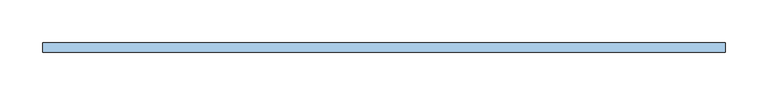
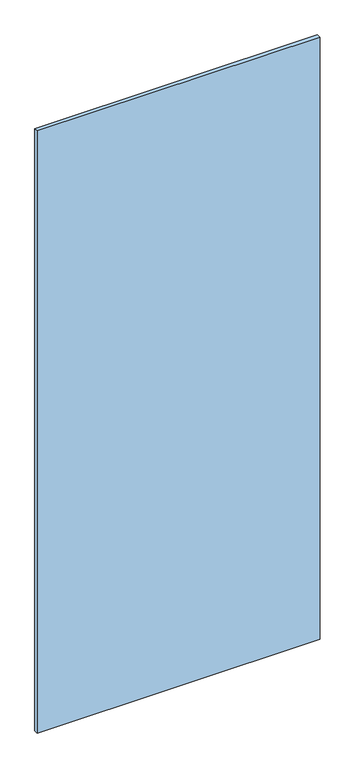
"""IFC4 building model written with IfcOpenShell, lengths in millimetres: window geometry, Baño 1 Hueco lateral : CA-3-cancel baño-1.455 2 2."""

import ifcopenshell
import ifcopenshell.guid

model = None  # the IFC model being written
_history = None  # IfcOwnerHistory: only IFC2X3 demands one
_inside = {}  # id of a spatial element -> (the spatial element, [elements in it])
_under = {}  # id of a project, library or spatial element -> (it, [spatial elements below it])
_declared = {}  # id of a project -> (the project, [libraries it declares])
_typed = {}  # id of a type object -> (the type object, [elements of that type])
_made_of = {}  # id of a material, layer set ... -> (it, [elements and type objects made of it])


def new_model(schema):
    """Start an empty IFC model of exactly this schema.

    Asked for "IFC4X3", IfcOpenShell would pick the latest addendum, in which some entities
    have other attributes; the version numbers below select the first issue.
    IFC2X3 requires an IfcOwnerHistory on every rooted entity: one is made here for all.
    """
    global model, _history
    if schema == "IFC4X3":
        model = ifcopenshell.file(schema_version=(4, 3, 0, 0))
    else:
        model = ifcopenshell.file(schema=schema)
    _inside.clear()
    _under.clear()
    _declared.clear()
    _typed.clear()
    _made_of.clear()
    _history = None
    if model.schema == "IFC2X3":
        org = make("IfcOrganization", Name="unknown")
        user = make(
            "IfcPersonAndOrganization",
            ThePerson=make("IfcPerson", FamilyName="unknown"),
            TheOrganization=org,
        )
        app = make(
            "IfcApplication",
            ApplicationDeveloper=org,
            Version="unknown",
            ApplicationFullName="unknown",
            ApplicationIdentifier="unknown",
        )
        _history = make(
            "IfcOwnerHistory",
            OwningUser=user,
            OwningApplication=app,
            ChangeAction="ADDED",
            CreationDate=0,
        )
    return model


def make(cls, **values):
    """One entity of the class cls with the attributes given. An attribute that is None is left unset."""
    return model.create_entity(
        cls, **{name: value for name, value in values.items() if value is not None}
    )


def rooted(cls, **values):
    """An entity with a GlobalId (a new one), such as an element, a storey or a relation."""
    return make(cls, GlobalId=ifcopenshell.guid.new(), OwnerHistory=_history, **values)


def si_unit(unit_type, name, prefix=None):
    """IfcSIUnit, for example si_unit("LENGTHUNIT", "METRE", prefix="MILLI")."""
    return make("IfcSIUnit", UnitType=unit_type, Prefix=prefix, Name=name)


def assignment(units):
    """IfcUnitAssignment: the units of a project."""
    return None if units is None else make("IfcUnitAssignment", Units=units)


def point(xyz):
    """IfcCartesianPoint."""
    return None if xyz is None else make("IfcCartesianPoint", Coordinates=xyz)


def direction(xyz):
    """IfcDirection."""
    return None if xyz is None else make("IfcDirection", DirectionRatios=xyz)


def frame(location, z_axis=None, x_axis=None):
    """IfcAxis2Placement3D, a coordinate frame: its origin and axes. An axis left out is left unset."""
    return make(
        "IfcAxis2Placement3D",
        Location=point(location),
        Axis=direction(z_axis),
        RefDirection=direction(x_axis),
    )


def origin():
    """The frame at (0, 0, 0) with its axes left unset."""
    return frame((0.0, 0.0, 0.0))


def origin_with_axes():
    """The frame at (0, 0, 0) with the z axis (0, 0, 1) and the x axis (1, 0, 0) written out."""
    return frame((0.0, 0.0, 0.0), z_axis=(0.0, 0.0, 1.0), x_axis=(1.0, 0.0, 0.0))


def place(relative_to, where):
    """IfcLocalPlacement: puts the frame where relative to a parent placement (None: the world)."""
    return make(
        "IfcLocalPlacement", PlacementRelTo=relative_to, RelativePlacement=where
    )


def context(
    kind, dimensions, precision=None, world=None, true_north=None, identifier=None
):
    """IfcGeometricRepresentationContext, for example the 3D "Model" context."""
    return make(
        "IfcGeometricRepresentationContext",
        ContextIdentifier=identifier,
        ContextType=kind,
        CoordinateSpaceDimension=dimensions,
        Precision=precision,
        WorldCoordinateSystem=world,
        TrueNorth=true_north,
    )


def project(units=None, contexts=None):
    """IfcProject with its units and contexts."""
    return rooted(
        "IfcProject",
        Name="project",
        RepresentationContexts=contexts,
        UnitsInContext=assignment(units),
    )


def spatial(cls, under=None, at=None, **own):
    """A site, building, storey or space (cls), placed at a placement, below another one or the project."""
    s = rooted(cls, ObjectPlacement=at, **own)
    if under is not None:
        _under.setdefault(under.id(), (under, []))[1].append(s)
    return s


def polyline(points):
    """IfcPolyline through the points."""
    return make("IfcPolyline", Points=[point(p) for p in points])


def outline(outer, holes=None, kind="AREA"):
    """IfcArbitraryClosedProfileDef: a profile drawn as a closed curve; with holes, ...WithVoids."""
    if holes is None:
        return make("IfcArbitraryClosedProfileDef", ProfileType=kind, OuterCurve=outer)
    return make(
        "IfcArbitraryProfileDefWithVoids",
        ProfileType=kind,
        OuterCurve=outer,
        InnerCurves=holes,
    )


def extrude(swept, where, along, depth):
    """IfcExtrudedAreaSolid: the profile swept, set in the frame where, extruded along a direction by depth."""
    return make(
        "IfcExtrudedAreaSolid",
        SweptArea=swept,
        Position=where,
        ExtrudedDirection=direction(along),
        Depth=depth,
    )


def shape(context_of_items, identifier, shape_type, items):
    """IfcShapeRepresentation: the items that make up one representation, for example the "Body"."""
    return make(
        "IfcShapeRepresentation",
        ContextOfItems=context_of_items,
        RepresentationIdentifier=identifier,
        RepresentationType=shape_type,
        Items=items,
    )


def source(mapping_origin, context_of_items, identifier, shape_type, items):
    """IfcRepresentationMap: a shape defined once, which mapped items show again and again."""
    return make(
        "IfcRepresentationMap",
        MappingOrigin=mapping_origin,
        MappedRepresentation=shape(context_of_items, identifier, shape_type, items),
    )


def transform(
    local_origin,
    x_axis=None,
    y_axis=None,
    z_axis=None,
    scale=None,
    scale2=None,
    scale3=None,
    uniform=True,
):
    """IfcCartesianTransformationOperator3D, or its non-uniform kind. x_axis, y_axis, z_axis: its Axis1, 2, 3."""
    if uniform:
        return make(
            "IfcCartesianTransformationOperator3D",
            Axis1=direction(x_axis),
            Axis2=direction(y_axis),
            LocalOrigin=point(local_origin),
            Scale=scale,
            Axis3=direction(z_axis),
        )
    return make(
        "IfcCartesianTransformationOperator3DnonUniform",
        Axis1=direction(x_axis),
        Axis2=direction(y_axis),
        LocalOrigin=point(local_origin),
        Scale=scale,
        Axis3=direction(z_axis),
        Scale2=scale2,
        Scale3=scale3,
    )


def mapped(mapping_source, mapping_target):
    """IfcMappedItem: shows the shape of a source again, moved by a transform."""
    return make(
        "IfcMappedItem", MappingSource=mapping_source, MappingTarget=mapping_target
    )


def made_of(thing, what):
    """Note that an element or type object is made of a material, layer set ...; save() writes the relation."""
    if what is not None:
        _made_of.setdefault(what.id(), (what, []))[1].append(thing)
    return thing


def element(
    cls,
    number,
    at=None,
    inside=None,
    cuts=None,
    type_object=None,
    material=None,
    context=None,
    identifier="Body",
    shape_type=None,
    held_by="IfcProductDefinitionShape",
    body=None,
    shapes=None,
    **own,
):
    """One element of the class cls, such as IfcWall. Its Tag is "e" and its number.

    at: its placement. inside: the storey or other place that contains it. cuts: it is an
    opening in that element (IfcRelVoidsElement). A single representation is given by context,
    identifier, shape_type and body (its items); several are given by shapes. held_by: the class
    of the entity that holds the representations. save() writes the other relations.
    """
    e = rooted(cls, Tag="e%d" % number, ObjectPlacement=at, **own)
    if body is not None:
        shapes = [shape(context, identifier, shape_type, body)]
    if shapes is not None:
        e.Representation = make(held_by, Representations=shapes)
    if inside is not None:
        _inside.setdefault(inside.id(), (inside, []))[1].append(e)
    if cuts is not None:
        rooted(
            "IfcRelVoidsElement", RelatingBuildingElement=cuts, RelatedOpeningElement=e
        )
    if type_object is not None:
        _typed.setdefault(type_object.id(), (type_object, []))[1].append(e)
    return made_of(e, material)


def aggregate(whole, parts):
    """IfcRelAggregates: a whole, such as a stair, and the parts it consists of."""
    return rooted("IfcRelAggregates", RelatingObject=whole, RelatedObjects=parts)


def save(model, path):
    """Write the relations noted so far, then the file.

    IfcRelAggregates (storeys below a building ...), IfcRelContainedInSpatialStructure (elements
    in a storey), IfcRelDefinesByType, IfcRelAssociatesMaterial and IfcRelDeclares: one each for
    every whole, place, type object, material and project.
    """
    for whole, parts in _under.values():
        aggregate(whole, parts)
    for where, things in _inside.values():
        rooted(
            "IfcRelContainedInSpatialStructure",
            RelatedElements=things,
            RelatingStructure=where,
        )
    for kind, things in _typed.values():
        rooted("IfcRelDefinesByType", RelatedObjects=things, RelatingType=kind)
    for what, things in _made_of.values():
        rooted("IfcRelAssociatesMaterial", RelatedObjects=things, RelatingMaterial=what)
    for by, libraries in _declared.values():
        rooted("IfcRelDeclares", RelatingContext=by, RelatedDefinitions=libraries)
    model.write(path)


def window_64203943(model_context):
    return source(origin(), model_context, "Body", "SweptSolid", [
        extrude(outline(polyline([(-700.0, -5.5), (-700.0, 5.5), (100.0, 5.5), (100.0, -5.5), (-700.0, -5.5)])), origin_with_axes(), (0.0, 0.0, 1.0), 1800.0),
    ])


if __name__ == "__main__":
    model = new_model("IFC4")
    model_context = context("Model", 3, world=origin())
    ifc_project = project(units=[si_unit("LENGTHUNIT", "METRE", prefix="MILLI")], contexts=[model_context])
    site = spatial("IfcSite", under=ifc_project)
    building = spatial("IfcBuilding", under=site)
    placement = place(None, origin())
    window_shape = window_64203943(model_context)
    element("IfcWindow", 1, ObjectType="Baño 1 Hueco lateral : CA-3-cancel baño-1.455 2 2", at=placement, inside=building, context=model_context, shape_type="MappedRepresentation", body=[
        mapped(window_shape, transform((0.0, 0.0, 0.0), x_axis=(1.0, 0.0, 0.0), y_axis=(0.0, 1.0, 0.0), z_axis=(0.0, 0.0, 1.0))),
    ])
    save(model, "model.ifc")
